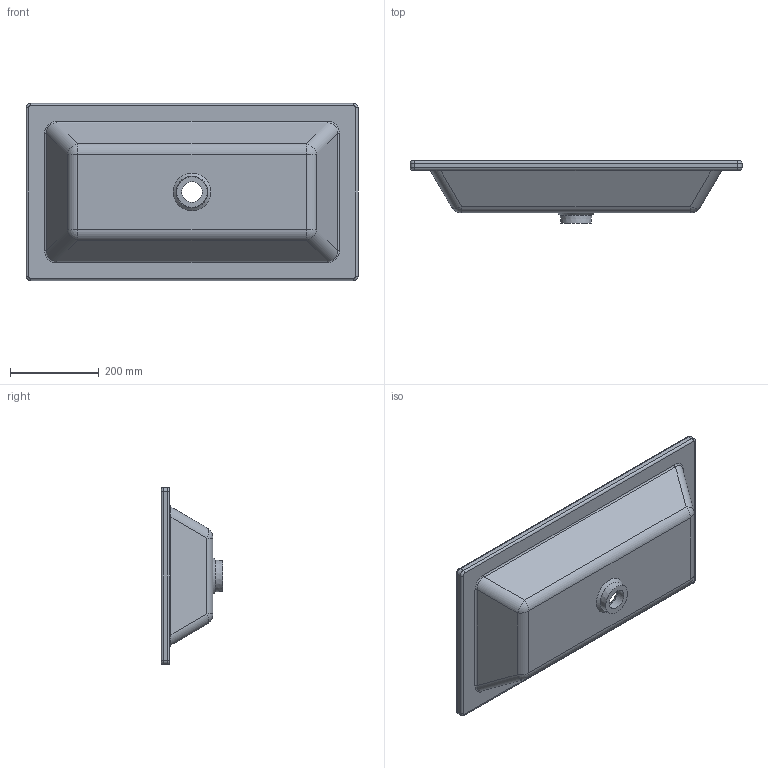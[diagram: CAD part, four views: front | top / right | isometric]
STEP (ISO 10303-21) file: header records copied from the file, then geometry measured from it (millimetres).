
FILE_DESCRIPTION (( 'STEP AP203' ), '1' );
FILE_NAME ('THI75_IN.STEP', '2017-12-13T11:22:29', ( '' ), ( '' ), 'SwSTEP 2.0', 'SolidWorks 2018', '' );
FILE_SCHEMA (( 'CONFIG_CONTROL_DESIGN' ));
Length unit declared in the file: millimetre
Products named in the file (1): THI75_IN
Bounding box: 750 x 140 x 400 mm (x, y, z)
Volume: 5478163.5 mm3; surface area: 825958.7 mm2
Topology: 1 solids, 1 shells, 83 faces, 185 edges, 99 vertices
Faces by surface type: cylinder 37, plane 17, torus 10, sphere 8, bspline 8, cone 3
Full cylindrical faces by diameter (mm): 46 x1
Entity records: 2515 total; most frequent: CARTESIAN_POINT 724, DIRECTION 384, ORIENTED_EDGE 336, EDGE_CURVE 168, AXIS2_PLACEMENT_3D 156, VERTEX_POINT 96, EDGE_LOOP 94, FACE_OUTER_BOUND 86
